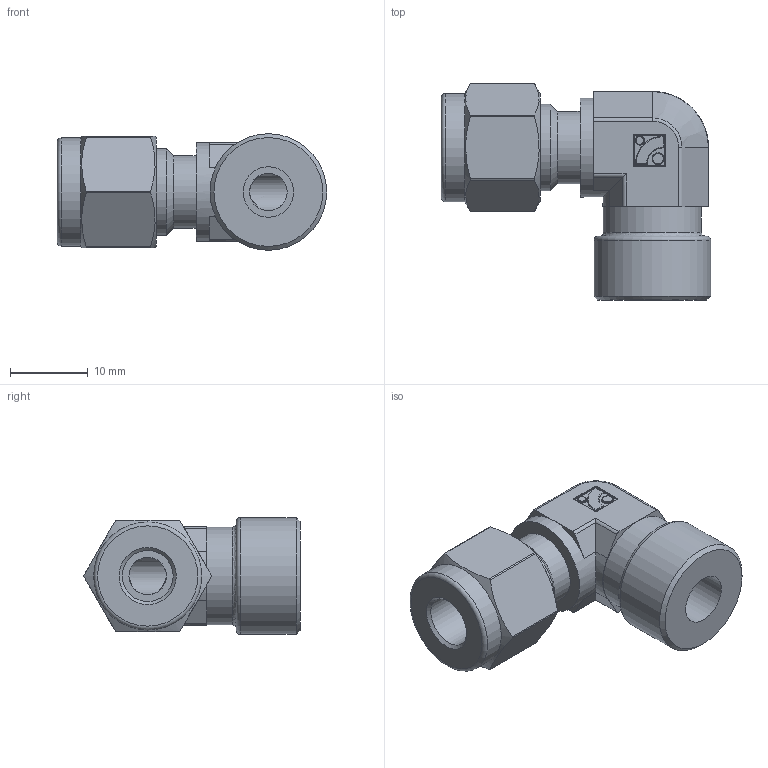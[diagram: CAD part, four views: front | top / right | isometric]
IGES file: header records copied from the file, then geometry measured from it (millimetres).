
Global section: file name: No Iges File Name specified; native system: Autodesk Inventor 2012; preprocessor: AutoDesk Inventor Iges Exporter R2012; author: 硅己绕,,1; organization: 1; date: 20150703.120312; units: millimetre
Bounding box: 34.64 x 27.8 x 15 mm (x, y, z)
Volume: 5509.2 mm3; surface area: 3313.6 mm2
Topology: 1 solids, 1 shells, 129 faces, 286 edges, 167 vertices
Faces by surface type: plane 40, cylinder 36, revolution 30, torus 13, cone 6, sphere 4
Full cylindrical faces by diameter (mm): 1.08 x1, 1.44 x1, 9.3 x1, 11.112 x1, 12.6 x1, 12.7 x1, 13.9 x1, 15 x1
